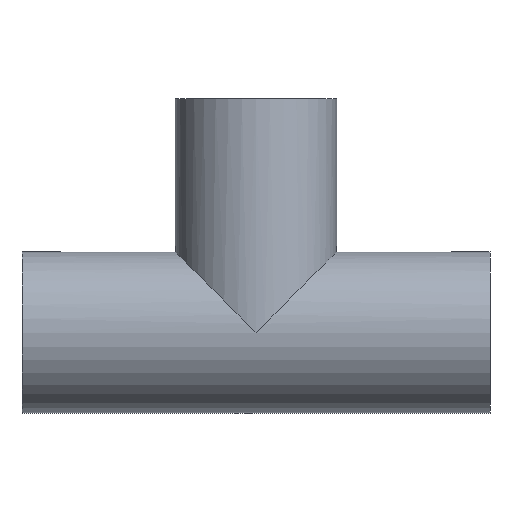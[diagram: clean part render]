
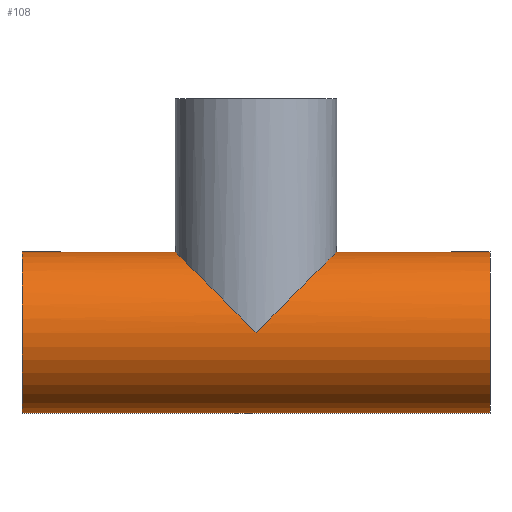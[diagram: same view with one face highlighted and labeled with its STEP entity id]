
A CAD part, front view. The second image highlights one B-rep face of the part: STEP entity #108.
In plain terms, the highlighted cylindrical face has radius 20 mm (diameter 40 mm), a full revolution.
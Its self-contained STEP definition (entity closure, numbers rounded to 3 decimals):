
#25=FACE_BOUND('',#51,.T.);
#26=FACE_BOUND('',#52,.T.);
#32=CIRCLE('',#121,20.);
#34=CIRCLE('',#128,20.);
#38=FACE_OUTER_BOUND('',#50,.T.);
#50=EDGE_LOOP('',(#93));
#51=EDGE_LOOP('',(#94,#95));
#52=EDGE_LOOP('',(#96));
#57=ELLIPSE('',#123,28.284,20.);
#58=ELLIPSE('',#124,28.284,20.);
#64=VERTEX_POINT('',#180);
#65=VERTEX_POINT('',#183);
#66=VERTEX_POINT('',#184);
#68=VERTEX_POINT('',#191);
#74=EDGE_CURVE('',#64,#64,#32,.T.);
#75=EDGE_CURVE('',#65,#66,#57,.T.);
#76=EDGE_CURVE('',#65,#66,#58,.T.);
#78=EDGE_CURVE('',#68,#68,#34,.T.);
#93=ORIENTED_EDGE('',*,*,#74,.F.);
#94=ORIENTED_EDGE('',*,*,#75,.T.);
#95=ORIENTED_EDGE('',*,*,#76,.F.);
#96=ORIENTED_EDGE('',*,*,#78,.F.);
#102=CYLINDRICAL_SURFACE('',#127,20.);
#108=ADVANCED_FACE('',(#38,#25,#26),#102,.T.);
#121=AXIS2_PLACEMENT_3D('',#181,#148,#149);
#123=AXIS2_PLACEMENT_3D('',#185,#152,#153);
#124=AXIS2_PLACEMENT_3D('',#186,#154,#155);
#127=AXIS2_PLACEMENT_3D('',#190,#160,#161);
#128=AXIS2_PLACEMENT_3D('',#192,#162,#163);
#148=DIRECTION('center_axis',(-1.,0.,0.));
#149=DIRECTION('ref_axis',(0.,-1.,0.));
#152=DIRECTION('center_axis',(0.707,0.,-0.707));
#153=DIRECTION('ref_axis',(0.707,0.,0.707));
#154=DIRECTION('center_axis',(0.707,0.,0.707));
#155=DIRECTION('ref_axis',(-0.707,0.,0.707));
#160=DIRECTION('center_axis',(1.,0.,0.));
#161=DIRECTION('ref_axis',(0.,-1.,0.));
#162=DIRECTION('center_axis',(1.,0.,0.));
#163=DIRECTION('ref_axis',(0.,-1.,0.));
#180=CARTESIAN_POINT('',(-58.,20.,0.));
#181=CARTESIAN_POINT('Origin',(-58.,0.,0.));
#183=CARTESIAN_POINT('',(0.,20.,0.));
#184=CARTESIAN_POINT('',(0.,-20.,0.));
#185=CARTESIAN_POINT('Origin',(0.,0.,0.));
#186=CARTESIAN_POINT('Origin',(0.,0.,0.));
#190=CARTESIAN_POINT('Origin',(0.,0.,0.));
#191=CARTESIAN_POINT('',(58.,20.,0.));
#192=CARTESIAN_POINT('Origin',(58.,0.,0.));
